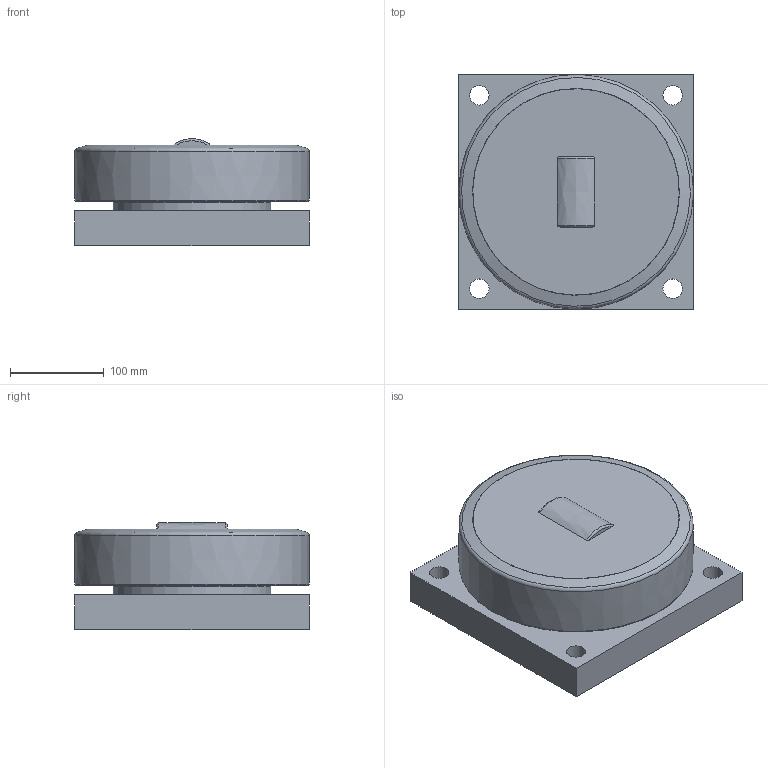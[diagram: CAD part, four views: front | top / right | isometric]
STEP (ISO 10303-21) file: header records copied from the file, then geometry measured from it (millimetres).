
FILE_DESCRIPTION((''),'2;1');
FILE_NAME('K:\Daten\KOMPONENTEN 2D + 3D\KOMPONENTEN Step-Files für extern\_ALFATEC_Mammutrollen und Profile\MR .0610 mit Platte\ALFATEC_MR 250.0610_BQ1000.stp','2013-10-01T13:35:05',('hipp'),(''),'Autodesk Inventor 2013','Autodesk Inventor 2013','');
FILE_SCHEMA(('CONFIG_CONTROL_DESIGN'));
Length unit declared in the file: millimetre
Products named in the file (1): MR 250.0610_BQ1000_Shrinkwrap_1
Bounding box: 250 x 250 x 114 mm (x, y, z)
Volume: 5252420 mm3; surface area: 283934 mm2
Topology: 1 solids, 1 shells, 39 faces, 90 edges, 59 vertices
Faces by surface type: plane 14, cylinder 11, cone 7, torus 5, bspline 2
Full cylindrical faces by diameter (mm): 2.5 x1, 4.917 x1, 15 x1, 20.752 x4, 111 x1, 120 x1, 168 x1
Entity records: 1088 total; most frequent: CARTESIAN_POINT 271, DIRECTION 156, ORIENTED_EDGE 116, EDGE_LOOP 72, AXIS2_PLACEMENT_3D 71, EDGE_CURVE 58, VERTEX_POINT 48, FACE_OUTER_BOUND 38
